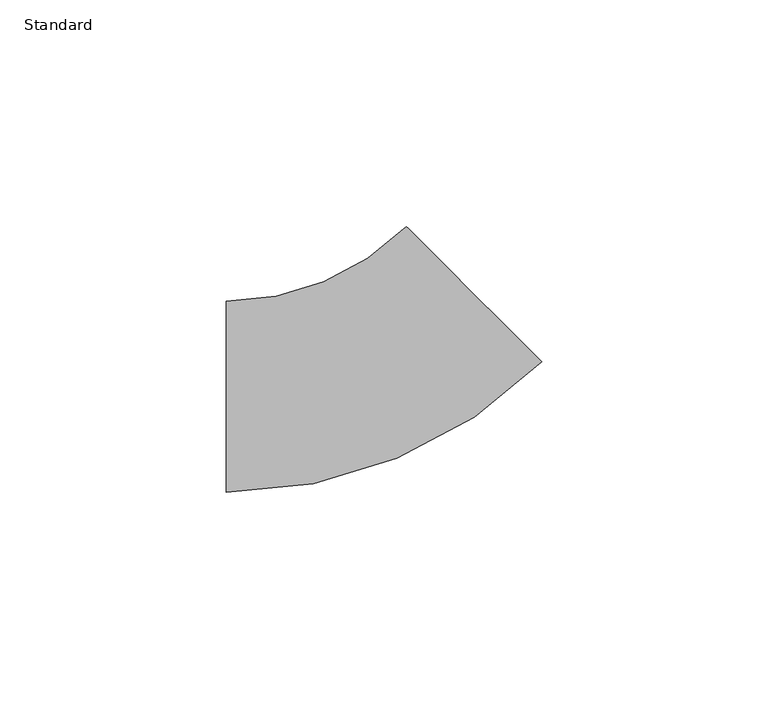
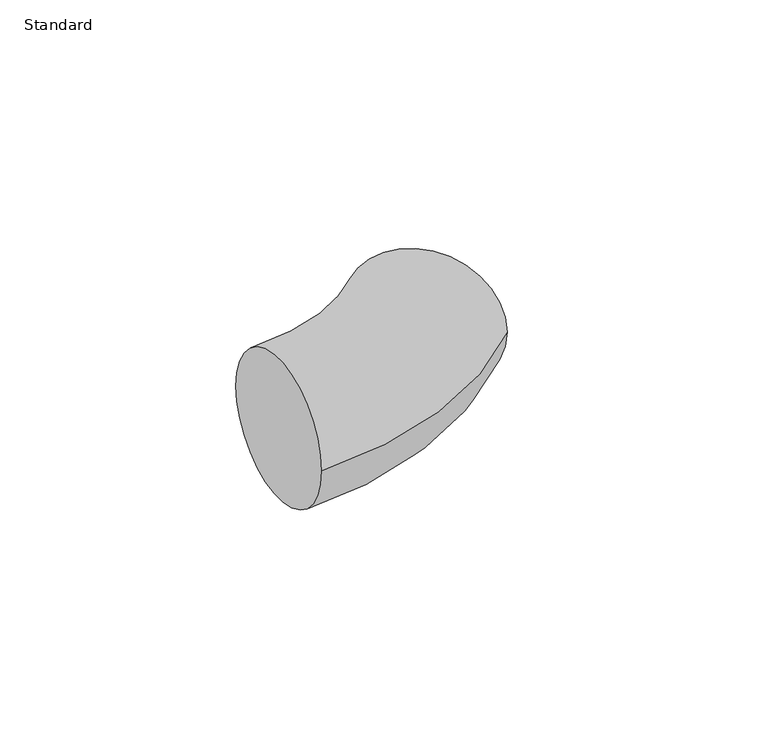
"""IFC4 building model written with IfcOpenShell, lengths in millimetres: pipe fitting geometry, Coude - Générique1 : Standard."""

from ifc_helpers import new_model, si_unit, point, frame, origin, place, context, project, spatial, circle_curve, ellipse_curve, trimmed, source, transform, mapped, element, save
from ifc_brep_helpers import plane_surface, revolved_surface, advanced_brep


def standard_c4f152d3(model_context):
    return source(origin(), model_context, "Body", "AdvancedBrep", [
        advanced_brep(
        [(-32.0, -21.1, 0.0), (-32.0, 21.1, 0.0), (37.5477553, 7.7055872, 0.0), (7.7093406, 37.5469848, 0.0)],
        [
            (0, 1, circle_curve(frame((-32.0, 0.0, 0.0), z_axis=(-1.0, 0.0, 0.0), x_axis=(0.0, 1.0, 0.0)), 21.1)),
            (1, 0, circle_curve(frame((-32.0, 0.0, 0.0), z_axis=(-1.0, 0.0, 0.0), x_axis=(0.0, 1.0, 0.0)), 21.1)),
            (2, 3, circle_curve(frame((22.6285479, 22.626286, 0.0), z_axis=(0.7071421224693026, 0.7070714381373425, 0.0), x_axis=(-0.7070714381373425, 0.7071421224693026, 0.0)), 21.1)),
            (3, 2, circle_curve(frame((22.6285479, 22.626286, 0.0), z_axis=(0.7071421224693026, 0.7070714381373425, 0.0), x_axis=(-0.7070714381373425, 0.7071421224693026, 0.0)), 21.1)),
            (3, 1, circle_curve(frame((-32.0, 77.260295, 0.0), z_axis=(0.0, 0.0, -1.0), x_axis=(0.0, -1.0, 0.0)), 56.160295)),
            (0, 2, circle_curve(frame((-32.0, 77.260295, 0.0), z_axis=(0.0, 0.0, 1.0), x_axis=(0.0, -1.0, 0.0)), 98.360295)),
        ],
        [
            plane_surface(frame((-32.0, 0.0, 0.0), z_axis=(-1.0, 0.0, 0.0), x_axis=(0.0, 0.0, 1.0))),
            plane_surface(frame((22.6285479, 22.626286, 0.0), z_axis=(0.7071421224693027, 0.7070714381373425, 0.0), x_axis=(0.0, 0.0, 1.0))),
            revolved_surface(trimmed(ellipse_curve(frame((-32.0, 0.0, 0.0), z_axis=(-1.0, 0.0, 0.0), x_axis=(0.0, 1.0, 0.0)), 21.1, 21.1), [point((-32.0, -21.1, 0.0))], [point((-32.0, 21.1, 0.0))], True, "CARTESIAN"), (-32.0, 77.260295, 0.0), (0.0, 0.0, 1.0)),
            revolved_surface(trimmed(ellipse_curve(frame((-32.0, 0.0, 0.0), z_axis=(-1.0, 0.0, 0.0), x_axis=(0.0, 1.0, 0.0)), 21.1, 21.1), [point((-32.0, 21.1, 0.0))], [point((-32.0, -21.1, 0.0))], True, "CARTESIAN"), (-32.0, 77.260295, 0.0), (0.0, 0.0, 1.0)),
        ],
        [
            (0, [[1, 2]]),
            (1, [[3, 4]]),
            (2, [[5, -1, 6, -4]]),
            (3, [[-6, -2, -5, -3]]),
        ],
    ),
    ])


if __name__ == "__main__":
    model = new_model("IFC4")
    model_context = context("Model", 3, world=origin())
    ifc_project = project(units=[si_unit("LENGTHUNIT", "METRE", prefix="MILLI")], contexts=[model_context])
    site = spatial("IfcSite", under=ifc_project)
    building = spatial("IfcBuilding", under=site)
    placement = place(None, origin())
    standard_shape = standard_c4f152d3(model_context)
    element("IfcPipeFitting", 1, ObjectType="Coude - Générique1 : Standard", at=placement, inside=building, context=model_context, shape_type="MappedRepresentation", body=[
        mapped(standard_shape, transform((0.0, 0.0, 0.0), x_axis=(1.0, 0.0, 0.0), y_axis=(0.0, 1.0, 0.0), z_axis=(0.0, 0.0, 1.0))),
    ])
    save(model, "model.ifc")
